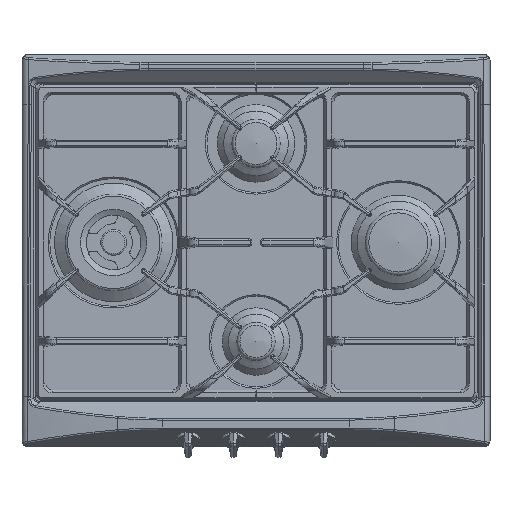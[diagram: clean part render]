
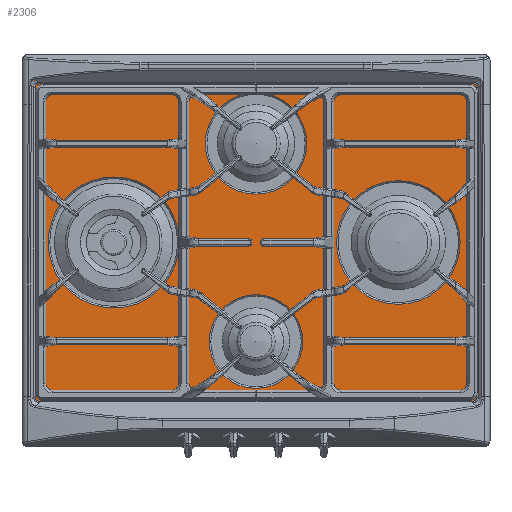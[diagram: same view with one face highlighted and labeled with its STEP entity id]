
A CAD part, top view. The second image highlights one B-rep face of the part: STEP entity #2306.
In plain terms, the highlighted planar face has unit normal (0, 0, 1).
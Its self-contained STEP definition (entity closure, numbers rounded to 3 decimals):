
#1234=ELLIPSE('',#19381,12.498,7.);
#1235=ELLIPSE('',#19382,12.498,7.);
#1236=ELLIPSE('',#19383,11.139,7.);
#1237=ELLIPSE('',#19384,11.139,7.);
#1609=FACE_BOUND('',#4950,.T.);
#1610=FACE_BOUND('',#4951,.T.);
#1611=FACE_BOUND('',#4952,.T.);
#1612=FACE_BOUND('',#4953,.T.);
#1613=FACE_BOUND('',#4954,.T.);
#2306=ADVANCED_FACE('',(#1609,#1610,#1611,#1612,#1613),#3073,.T.);
#3073=PLANE('',#19385);
#4950=EDGE_LOOP('',(#11073));
#4951=EDGE_LOOP('',(#11074));
#4952=EDGE_LOOP('',(#11075));
#4953=EDGE_LOOP('',(#11076));
#4954=EDGE_LOOP('',(#11077,#11078,#11079,#11080,#11081,#11082,#11083,#11084));
#6280=LINE('',#29909,#7637);
#6281=LINE('',#29913,#7638);
#6282=LINE('',#29917,#7639);
#6283=LINE('',#29921,#7640);
#7637=VECTOR('',#23453,1.);
#7638=VECTOR('',#23456,1.);
#7639=VECTOR('',#23459,1.);
#7640=VECTOR('',#23462,1.);
#11073=ORIENTED_EDGE('',*,*,#16395,.F.);
#11074=ORIENTED_EDGE('',*,*,#16396,.F.);
#11075=ORIENTED_EDGE('',*,*,#16397,.F.);
#11076=ORIENTED_EDGE('',*,*,#16398,.F.);
#11077=ORIENTED_EDGE('',*,*,#16399,.T.);
#11078=ORIENTED_EDGE('',*,*,#16400,.T.);
#11079=ORIENTED_EDGE('',*,*,#16401,.T.);
#11080=ORIENTED_EDGE('',*,*,#16402,.T.);
#11081=ORIENTED_EDGE('',*,*,#16403,.T.);
#11082=ORIENTED_EDGE('',*,*,#16404,.T.);
#11083=ORIENTED_EDGE('',*,*,#16405,.T.);
#11084=ORIENTED_EDGE('',*,*,#16406,.T.);
#14269=VERTEX_POINT('',#29899);
#14270=VERTEX_POINT('',#29901);
#14271=VERTEX_POINT('',#29903);
#14272=VERTEX_POINT('',#29905);
#14273=VERTEX_POINT('',#29907);
#14274=VERTEX_POINT('',#29908);
#14275=VERTEX_POINT('',#29910);
#14276=VERTEX_POINT('',#29912);
#14277=VERTEX_POINT('',#29914);
#14278=VERTEX_POINT('',#29916);
#14279=VERTEX_POINT('',#29918);
#14280=VERTEX_POINT('',#29920);
#16395=EDGE_CURVE('',#14269,#14269,#17894,.T.);
#16396=EDGE_CURVE('',#14270,#14270,#17895,.T.);
#16397=EDGE_CURVE('',#14271,#14271,#17896,.T.);
#16398=EDGE_CURVE('',#14272,#14272,#17897,.T.);
#16399=EDGE_CURVE('',#14273,#14274,#1234,.T.);
#16400=EDGE_CURVE('',#14274,#14275,#6280,.T.);
#16401=EDGE_CURVE('',#14275,#14276,#1235,.T.);
#16402=EDGE_CURVE('',#14276,#14277,#6281,.T.);
#16403=EDGE_CURVE('',#14277,#14278,#1236,.T.);
#16404=EDGE_CURVE('',#14278,#14279,#6282,.T.);
#16405=EDGE_CURVE('',#14279,#14280,#1237,.T.);
#16406=EDGE_CURVE('',#14280,#14273,#6283,.T.);
#17894=CIRCLE('',#19377,79.25);
#17895=CIRCLE('',#19378,60.);
#17896=CIRCLE('',#19379,65.);
#17897=CIRCLE('',#19380,84.);
#19377=AXIS2_PLACEMENT_3D('',#29898,#23443,#23444);
#19378=AXIS2_PLACEMENT_3D('',#29900,#23445,#23446);
#19379=AXIS2_PLACEMENT_3D('',#29902,#23447,#23448);
#19380=AXIS2_PLACEMENT_3D('',#29904,#23449,#23450);
#19381=AXIS2_PLACEMENT_3D('',#29906,#23451,#23452);
#19382=AXIS2_PLACEMENT_3D('',#29911,#23454,#23455);
#19383=AXIS2_PLACEMENT_3D('',#29915,#23457,#23458);
#19384=AXIS2_PLACEMENT_3D('',#29919,#23460,#23461);
#19385=AXIS2_PLACEMENT_3D('',#29922,#23463,#23464);
#23443=DIRECTION('',(0.,0.,1.));
#23444=DIRECTION('',(1.,0.,0.));
#23445=DIRECTION('',(0.,0.,1.));
#23446=DIRECTION('',(1.,0.,0.));
#23447=DIRECTION('',(0.,0.,1.));
#23448=DIRECTION('',(1.,0.,0.));
#23449=DIRECTION('',(0.,0.,1.));
#23450=DIRECTION('',(1.,0.,0.));
#23451=DIRECTION('',(0.,0.,1.));
#23452=DIRECTION('',(-0.676,-0.737,0.));
#23453=DIRECTION('',(-1.,0.,0.));
#23454=DIRECTION('',(0.,0.,1.));
#23455=DIRECTION('',(-0.676,0.737,0.));
#23456=DIRECTION('',(0.,-1.,0.));
#23457=DIRECTION('',(0.,0.,1.));
#23458=DIRECTION('',(0.808,0.589,0.));
#23459=DIRECTION('',(1.,0.,0.));
#23460=DIRECTION('',(0.,0.,1.));
#23461=DIRECTION('',(0.808,-0.589,0.));
#23462=DIRECTION('',(0.,1.,0.));
#23463=DIRECTION('',(0.,0.,1.));
#23464=DIRECTION('',(1.,0.,0.));
#29898=CARTESIAN_POINT('',(370.933,-593.649,13.));
#29899=CARTESIAN_POINT('',(450.183,-593.649,13.));
#29900=CARTESIAN_POINT('',(188.433,-720.649,13.));
#29901=CARTESIAN_POINT('',(248.433,-720.649,13.));
#29902=CARTESIAN_POINT('',(188.433,-466.649,13.));
#29903=CARTESIAN_POINT('',(253.433,-466.649,13.));
#29904=CARTESIAN_POINT('',(5.933,-593.649,13.));
#29905=CARTESIAN_POINT('',(89.933,-593.649,13.));
#29906=CARTESIAN_POINT('',(461.791,-400.67,13.));
#29907=CARTESIAN_POINT('',(471.69,-395.276,13.));
#29908=CARTESIAN_POINT('',(466.948,-390.317,13.));
#29909=CARTESIAN_POINT('',(-89.293,-390.317,13.));
#29910=CARTESIAN_POINT('',(-90.083,-390.317,13.));
#29911=CARTESIAN_POINT('',(-84.925,-400.67,13.));
#29912=CARTESIAN_POINT('',(-94.825,-395.276,13.));
#29913=CARTESIAN_POINT('',(-94.825,-791.429,13.));
#29914=CARTESIAN_POINT('',(-94.825,-792.07,13.));
#29915=CARTESIAN_POINT('',(-84.925,-788.459,13.));
#29916=CARTESIAN_POINT('',(-89.05,-797.124,13.));
#29917=CARTESIAN_POINT('',(464.684,-797.124,13.));
#29918=CARTESIAN_POINT('',(465.916,-797.124,13.));
#29919=CARTESIAN_POINT('',(461.791,-788.459,13.));
#29920=CARTESIAN_POINT('',(471.69,-792.07,13.));
#29921=CARTESIAN_POINT('',(471.69,-396.233,13.));
#29922=CARTESIAN_POINT('',(188.433,-603.899,13.));
